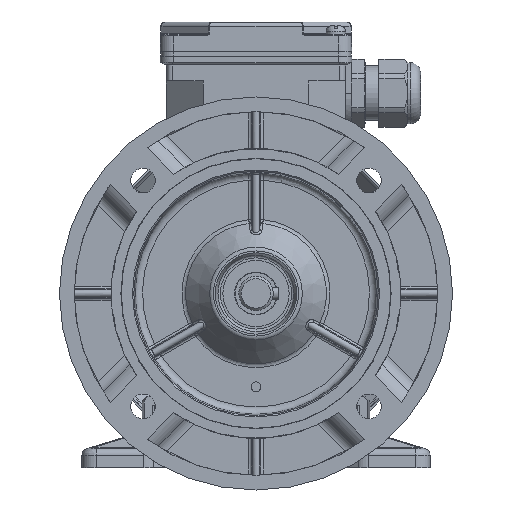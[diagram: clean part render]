
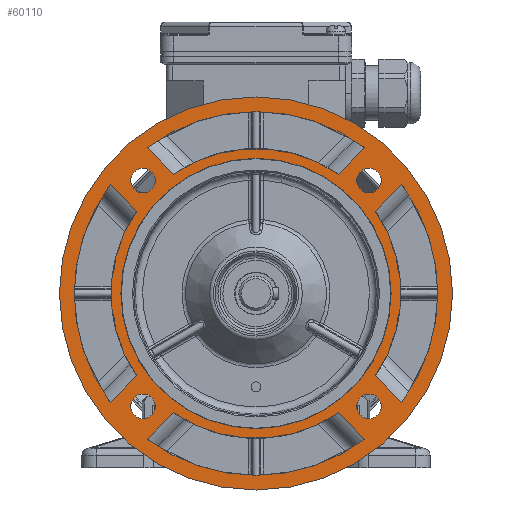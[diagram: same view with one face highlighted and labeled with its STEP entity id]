
A CAD part, front view. The second image highlights one B-rep face of the part: STEP entity #60110.
In plain terms, the highlighted planar face has unit normal (0, -1, 0).
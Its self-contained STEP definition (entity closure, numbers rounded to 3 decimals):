
#1703=LINE('',#88456,#4566);
#1704=LINE('',#88470,#4567);
#1705=LINE('',#88479,#4568);
#1706=LINE('',#88498,#4569);
#1707=LINE('',#88510,#4570);
#1708=LINE('',#88524,#4571);
#1709=LINE('',#88550,#4572);
#1710=LINE('',#88559,#4573);
#4566=VECTOR('',#70994,1000.);
#4567=VECTOR('',#71001,1000.);
#4568=VECTOR('',#71008,1000.);
#4569=VECTOR('',#71015,1000.);
#4570=VECTOR('',#71026,1000.);
#4571=VECTOR('',#71033,1000.);
#4572=VECTOR('',#71044,1000.);
#4573=VECTOR('',#71051,1000.);
#15025=ORIENTED_EDGE('',*,*,#25113,.F.);
#15026=ORIENTED_EDGE('',*,*,#25114,.F.);
#15027=ORIENTED_EDGE('',*,*,#25115,.F.);
#15028=ORIENTED_EDGE('',*,*,#25116,.F.);
#15029=ORIENTED_EDGE('',*,*,#25106,.F.);
#15030=ORIENTED_EDGE('',*,*,#25104,.F.);
#15031=ORIENTED_EDGE('',*,*,#25103,.T.);
#15032=ORIENTED_EDGE('',*,*,#25100,.T.);
#15033=ORIENTED_EDGE('',*,*,#25098,.F.);
#15034=ORIENTED_EDGE('',*,*,#25096,.T.);
#15035=ORIENTED_EDGE('',*,*,#25094,.T.);
#15036=ORIENTED_EDGE('',*,*,#25092,.F.);
#15037=ORIENTED_EDGE('',*,*,#25090,.F.);
#15038=ORIENTED_EDGE('',*,*,#25089,.F.);
#15039=ORIENTED_EDGE('',*,*,#25088,.T.);
#15040=ORIENTED_EDGE('',*,*,#25085,.T.);
#15041=ORIENTED_EDGE('',*,*,#25083,.F.);
#15042=ORIENTED_EDGE('',*,*,#25081,.F.);
#15043=ORIENTED_EDGE('',*,*,#25080,.T.);
#15044=ORIENTED_EDGE('',*,*,#25077,.T.);
#15045=ORIENTED_EDGE('',*,*,#25076,.F.);
#15046=ORIENTED_EDGE('',*,*,#25112,.T.);
#25076=EDGE_CURVE('',#30560,#30559,#1703,.T.);
#25077=EDGE_CURVE('',#30561,#30559,#33887,.T.);
#25080=EDGE_CURVE('',#30562,#30561,#1704,.T.);
#25081=EDGE_CURVE('',#30562,#30560,#33888,.T.);
#25083=EDGE_CURVE('',#30563,#30564,#1705,.T.);
#25085=EDGE_CURVE('',#30565,#30564,#33889,.T.);
#25088=EDGE_CURVE('',#30566,#30565,#1706,.T.);
#25089=EDGE_CURVE('',#30566,#30563,#33890,.T.);
#25090=EDGE_CURVE('',#30567,#30567,#33891,.T.);
#25092=EDGE_CURVE('',#30568,#30569,#1707,.T.);
#25094=EDGE_CURVE('',#30570,#30569,#33892,.T.);
#25096=EDGE_CURVE('',#30571,#30570,#1708,.T.);
#25098=EDGE_CURVE('',#30571,#30568,#33893,.T.);
#25100=EDGE_CURVE('',#30573,#30572,#33894,.T.);
#25103=EDGE_CURVE('',#30574,#30573,#1709,.T.);
#25104=EDGE_CURVE('',#30574,#30575,#33895,.T.);
#25106=EDGE_CURVE('',#30575,#30572,#1710,.T.);
#25112=EDGE_CURVE('',#30581,#30581,#33901,.T.);
#25113=EDGE_CURVE('',#30582,#30582,#33902,.T.);
#25114=EDGE_CURVE('',#30583,#30583,#33903,.T.);
#25115=EDGE_CURVE('',#30584,#30584,#33904,.T.);
#25116=EDGE_CURVE('',#30585,#30585,#33905,.T.);
#30559=VERTEX_POINT('',#88450);
#30560=VERTEX_POINT('',#88455);
#30561=VERTEX_POINT('',#88459);
#30562=VERTEX_POINT('',#88469);
#30563=VERTEX_POINT('',#88478);
#30564=VERTEX_POINT('',#88480);
#30565=VERTEX_POINT('',#88487);
#30566=VERTEX_POINT('',#88497);
#30567=VERTEX_POINT('',#88503);
#30568=VERTEX_POINT('',#88509);
#30569=VERTEX_POINT('',#88511);
#30570=VERTEX_POINT('',#88518);
#30571=VERTEX_POINT('',#88525);
#30572=VERTEX_POINT('',#88537);
#30573=VERTEX_POINT('',#88539);
#30574=VERTEX_POINT('',#88549);
#30575=VERTEX_POINT('',#88553);
#30581=VERTEX_POINT('',#88576);
#30582=VERTEX_POINT('',#88579);
#30583=VERTEX_POINT('',#88581);
#30584=VERTEX_POINT('',#88583);
#30585=VERTEX_POINT('',#88585);
#33887=CIRCLE('',#63401,59.);
#33888=CIRCLE('',#63404,74.);
#33889=CIRCLE('',#63407,59.);
#33890=CIRCLE('',#63410,74.);
#33891=CIRCLE('',#63412,55.);
#33892=CIRCLE('',#63415,59.);
#33893=CIRCLE('',#63418,74.);
#33894=CIRCLE('',#63420,59.);
#33895=CIRCLE('',#63423,74.);
#33901=CIRCLE('',#63435,80.);
#33902=CIRCLE('',#63437,5.);
#33903=CIRCLE('',#63438,5.);
#33904=CIRCLE('',#63439,5.);
#33905=CIRCLE('',#63440,5.);
#36172=EDGE_LOOP('',(#15025));
#36173=EDGE_LOOP('',(#15026));
#36174=EDGE_LOOP('',(#15027));
#36175=EDGE_LOOP('',(#15028));
#36176=EDGE_LOOP('',(#15029,#15030,#15031,#15032));
#36177=EDGE_LOOP('',(#15033,#15034,#15035,#15036));
#36178=EDGE_LOOP('',(#15037));
#36179=EDGE_LOOP('',(#15038,#15039,#15040,#15041));
#36180=EDGE_LOOP('',(#15042,#15043,#15044,#15045));
#36181=EDGE_LOOP('',(#15046));
#39064=FACE_BOUND('',#36172,.T.);
#39065=FACE_BOUND('',#36173,.T.);
#39066=FACE_BOUND('',#36174,.T.);
#39067=FACE_BOUND('',#36175,.T.);
#39068=FACE_BOUND('',#36176,.T.);
#39069=FACE_BOUND('',#36177,.T.);
#39070=FACE_BOUND('',#36178,.T.);
#39071=FACE_BOUND('',#36179,.T.);
#39072=FACE_BOUND('',#36180,.T.);
#39073=FACE_BOUND('',#36181,.T.);
#40994=PLANE('',#63436);
#60110=ADVANCED_FACE('',(#39064,#39065,#39066,#39067,#39068,#39069,#39070,
#39071,#39072,#39073),#40994,.F.);
#63401=AXIS2_PLACEMENT_3D('',#88458,#70997,#70998);
#63404=AXIS2_PLACEMENT_3D('',#88472,#71004,#71005);
#63407=AXIS2_PLACEMENT_3D('',#88486,#71011,#71012);
#63410=AXIS2_PLACEMENT_3D('',#88500,#71018,#71019);
#63412=AXIS2_PLACEMENT_3D('',#88502,#71022,#71023);
#63415=AXIS2_PLACEMENT_3D('',#88517,#71029,#71030);
#63418=AXIS2_PLACEMENT_3D('',#88531,#71036,#71037);
#63420=AXIS2_PLACEMENT_3D('',#88538,#71040,#71041);
#63423=AXIS2_PLACEMENT_3D('',#88552,#71047,#71048);
#63435=AXIS2_PLACEMENT_3D('',#88575,#71072,#71073);
#63436=AXIS2_PLACEMENT_3D('',#88577,#71074,#71075);
#63437=AXIS2_PLACEMENT_3D('',#88578,#71076,#71077);
#63438=AXIS2_PLACEMENT_3D('',#88580,#71078,#71079);
#63439=AXIS2_PLACEMENT_3D('',#88582,#71080,#71081);
#63440=AXIS2_PLACEMENT_3D('',#88584,#71082,#71083);
#70994=DIRECTION('',(-0.707,0.,-0.707));
#70997=DIRECTION('',(0.,-1.,0.));
#70998=DIRECTION('',(0.,0.,-1.));
#71001=DIRECTION('',(-0.707,0.,0.707));
#71004=DIRECTION('',(0.,-1.,0.));
#71005=DIRECTION('',(0.,0.,-1.));
#71008=DIRECTION('',(-0.707,0.,0.707));
#71011=DIRECTION('',(0.,-1.,0.));
#71012=DIRECTION('',(0.,0.,-1.));
#71015=DIRECTION('',(0.707,0.,0.707));
#71018=DIRECTION('',(0.,-1.,0.));
#71019=DIRECTION('',(0.,0.,-1.));
#71022=DIRECTION('',(0.,-1.,0.));
#71023=DIRECTION('',(0.,0.,-1.));
#71026=DIRECTION('',(0.707,0.,0.707));
#71029=DIRECTION('',(0.,-1.,0.));
#71030=DIRECTION('',(0.,0.,-1.));
#71033=DIRECTION('',(0.707,0.,-0.707));
#71036=DIRECTION('',(0.,-1.,0.));
#71037=DIRECTION('',(0.,0.,-1.));
#71040=DIRECTION('',(0.,-1.,0.));
#71041=DIRECTION('',(0.,0.,-1.));
#71044=DIRECTION('',(-0.707,0.,-0.707));
#71047=DIRECTION('',(0.,-1.,0.));
#71048=DIRECTION('',(0.,0.,-1.));
#71051=DIRECTION('',(0.707,0.,-0.707));
#71072=DIRECTION('',(0.,-1.,0.));
#71073=DIRECTION('',(0.,0.,-1.));
#71074=DIRECTION('',(0.,1.,0.));
#71075=DIRECTION('',(0.,0.,1.));
#71076=DIRECTION('',(0.,-1.,0.));
#71077=DIRECTION('',(1.,0.,0.));
#71078=DIRECTION('',(0.,-1.,0.));
#71079=DIRECTION('',(1.,0.,0.));
#71080=DIRECTION('',(0.,-1.,0.));
#71081=DIRECTION('',(1.,0.,0.));
#71082=DIRECTION('',(0.,-1.,0.));
#71083=DIRECTION('',(1.,0.,0.));
#88450=CARTESIAN_POINT('',(48.549,-40.5,33.526));
#88455=CARTESIAN_POINT('',(59.295,-40.5,44.273));
#88456=CARTESIAN_POINT('',(59.837,-40.5,44.815));
#88458=CARTESIAN_POINT('',(0.,-40.5,0.));
#88459=CARTESIAN_POINT('',(48.549,-40.5,-33.526));
#88469=CARTESIAN_POINT('',(59.295,-40.5,-44.273));
#88470=CARTESIAN_POINT('',(59.837,-40.5,-44.815));
#88472=CARTESIAN_POINT('',(0.,-40.5,0.));
#88478=CARTESIAN_POINT('',(44.273,-40.5,-59.295));
#88479=CARTESIAN_POINT('',(44.815,-40.5,-59.837));
#88480=CARTESIAN_POINT('',(33.526,-40.5,-48.549));
#88486=CARTESIAN_POINT('',(0.,-40.5,0.));
#88487=CARTESIAN_POINT('',(-33.526,-40.5,-48.549));
#88497=CARTESIAN_POINT('',(-44.273,-40.5,-59.295));
#88498=CARTESIAN_POINT('',(-44.815,-40.5,-59.837));
#88500=CARTESIAN_POINT('',(0.,-40.5,0.));
#88502=CARTESIAN_POINT('',(0.,-40.5,0.));
#88503=CARTESIAN_POINT('',(0.,-40.5,-55.));
#88509=CARTESIAN_POINT('',(-59.295,-40.5,-44.273));
#88510=CARTESIAN_POINT('',(-59.837,-40.5,-44.815));
#88511=CARTESIAN_POINT('',(-48.549,-40.5,-33.526));
#88517=CARTESIAN_POINT('',(0.,-40.5,0.));
#88518=CARTESIAN_POINT('',(-48.549,-40.5,33.526));
#88524=CARTESIAN_POINT('',(-59.837,-40.5,44.815));
#88525=CARTESIAN_POINT('',(-59.295,-40.5,44.273));
#88531=CARTESIAN_POINT('',(0.,-40.5,0.));
#88537=CARTESIAN_POINT('',(-33.526,-40.5,48.549));
#88538=CARTESIAN_POINT('',(0.,-40.5,0.));
#88539=CARTESIAN_POINT('',(33.526,-40.5,48.549));
#88549=CARTESIAN_POINT('',(44.273,-40.5,59.295));
#88550=CARTESIAN_POINT('',(44.815,-40.5,59.837));
#88552=CARTESIAN_POINT('',(0.,-40.5,0.));
#88553=CARTESIAN_POINT('',(-44.273,-40.5,59.295));
#88559=CARTESIAN_POINT('',(-44.815,-40.5,59.837));
#88575=CARTESIAN_POINT('',(0.,-40.5,0.));
#88576=CARTESIAN_POINT('',(0.,-40.5,-80.));
#88577=CARTESIAN_POINT('',(0.,-40.5,55.));
#88578=CARTESIAN_POINT('',(45.962,-40.5,45.962));
#88579=CARTESIAN_POINT('',(50.962,-40.5,45.962));
#88580=CARTESIAN_POINT('',(45.962,-40.5,-45.962));
#88581=CARTESIAN_POINT('',(50.962,-40.5,-45.962));
#88582=CARTESIAN_POINT('',(-45.962,-40.5,-45.962));
#88583=CARTESIAN_POINT('',(-40.962,-40.5,-45.962));
#88584=CARTESIAN_POINT('',(-45.962,-40.5,45.962));
#88585=CARTESIAN_POINT('',(-40.962,-40.5,45.962));
